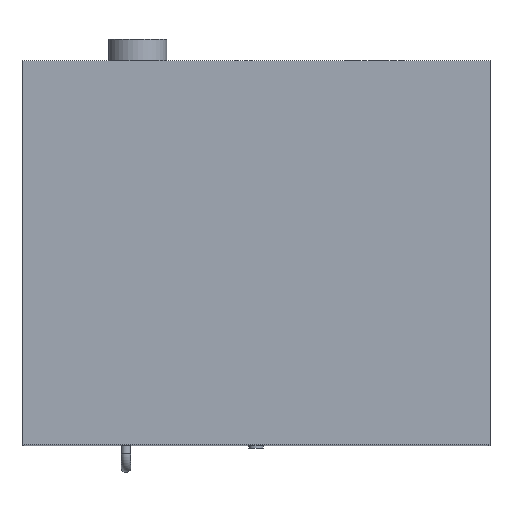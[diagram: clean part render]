
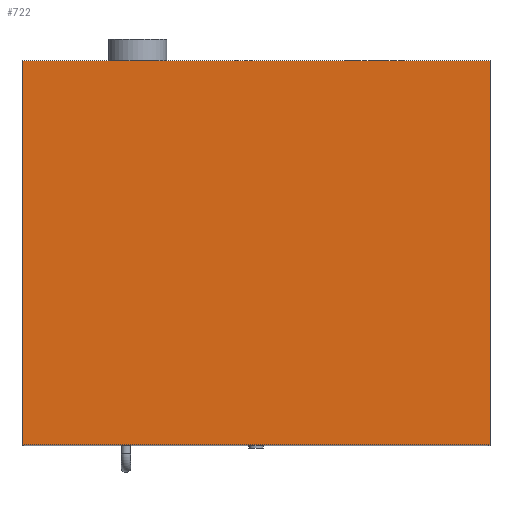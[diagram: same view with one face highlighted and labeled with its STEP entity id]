
A CAD part, top view. The second image highlights one B-rep face of the part: STEP entity #722.
In plain terms, the highlighted planar face has unit normal (0, 0, 1).
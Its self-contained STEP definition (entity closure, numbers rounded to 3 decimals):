
#38=LINE('',#981,#86);
#62=LINE('',#1032,#110);
#63=LINE('',#1034,#111);
#64=LINE('',#1036,#112);
#86=VECTOR('',#847,1000.);
#110=VECTOR('',#893,1000.);
#111=VECTOR('',#896,1000.);
#112=VECTOR('',#897,1000.);
#216=ORIENTED_EDGE('',*,*,#297,.T.);
#217=ORIENTED_EDGE('',*,*,#298,.T.);
#218=ORIENTED_EDGE('',*,*,#299,.T.);
#219=ORIENTED_EDGE('',*,*,#272,.T.);
#272=EDGE_CURVE('',#329,#328,#38,.T.);
#297=EDGE_CURVE('',#328,#344,#62,.T.);
#298=EDGE_CURVE('',#344,#345,#63,.T.);
#299=EDGE_CURVE('',#345,#329,#64,.T.);
#328=VERTEX_POINT('',#980);
#329=VERTEX_POINT('',#982);
#344=VERTEX_POINT('',#1031);
#345=VERTEX_POINT('',#1035);
#397=EDGE_LOOP('',(#216,#217,#218,#219));
#443=FACE_BOUND('',#397,.T.);
#471=PLANE('',#769);
#722=ADVANCED_FACE('',(#443),#471,.T.);
#769=AXIS2_PLACEMENT_3D('',#1033,#894,#895);
#847=DIRECTION('',(1.,0.,0.));
#893=DIRECTION('',(0.,1.,0.));
#894=DIRECTION('',(0.,0.,1.));
#895=DIRECTION('',(1.,0.,0.));
#896=DIRECTION('',(-1.,0.,0.));
#897=DIRECTION('',(0.,-1.,0.));
#980=CARTESIAN_POINT('',(601.,0.,596.));
#981=CARTESIAN_POINT('',(0.,0.,596.));
#982=CARTESIAN_POINT('',(0.,0.,596.));
#1031=CARTESIAN_POINT('',(601.,493.5,596.));
#1032=CARTESIAN_POINT('',(601.,0.,596.));
#1033=CARTESIAN_POINT('',(0.,0.,596.));
#1034=CARTESIAN_POINT('',(601.,493.5,596.));
#1035=CARTESIAN_POINT('',(0.,493.5,596.));
#1036=CARTESIAN_POINT('',(0.,493.,596.));
